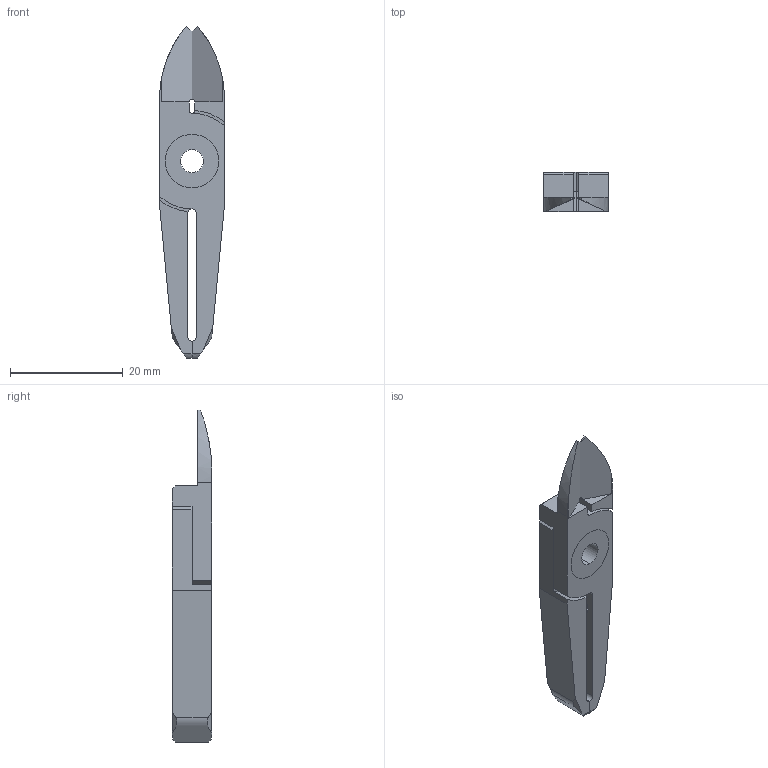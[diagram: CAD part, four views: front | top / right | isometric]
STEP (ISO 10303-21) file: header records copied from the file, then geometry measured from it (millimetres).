
FILE_DESCRIPTION (( 'STEP AP214' ), '1' );
FILE_NAME ('NT03AJY.STEP', '2019-11-28T09:28:35', ( '微软用户' ), ( '微软中国' ), 'SwSTEP 2.0', 'SolidWorks 2016', '' );
FILE_SCHEMA (( 'AUTOMOTIVE_DESIGN' ));
Length unit declared in the file: millimetre
Products named in the file (4): BR1; BS; NT03AJY; BR2
Assembly tree (3 placements, depth 2):
  NT03AJY
    BS
    BR1
    BR2
Bounding box: 11.5 x 7 x 59 mm (x, y, z)
Volume: 2780.8 mm3; surface area: 3173.2 mm2
Topology: 3 solids, 3 shells, 95 faces, 250 edges, 159 vertices
Faces by surface type: plane 43, cylinder 25, cone 16, bspline 11
Entity records: 3123 total; most frequent: CARTESIAN_POINT 677, ORIENTED_EDGE 492, DIRECTION 470, EDGE_CURVE 246, VERTEX_POINT 159, AXIS2_PLACEMENT_3D 158, LINE 154, VECTOR 154
